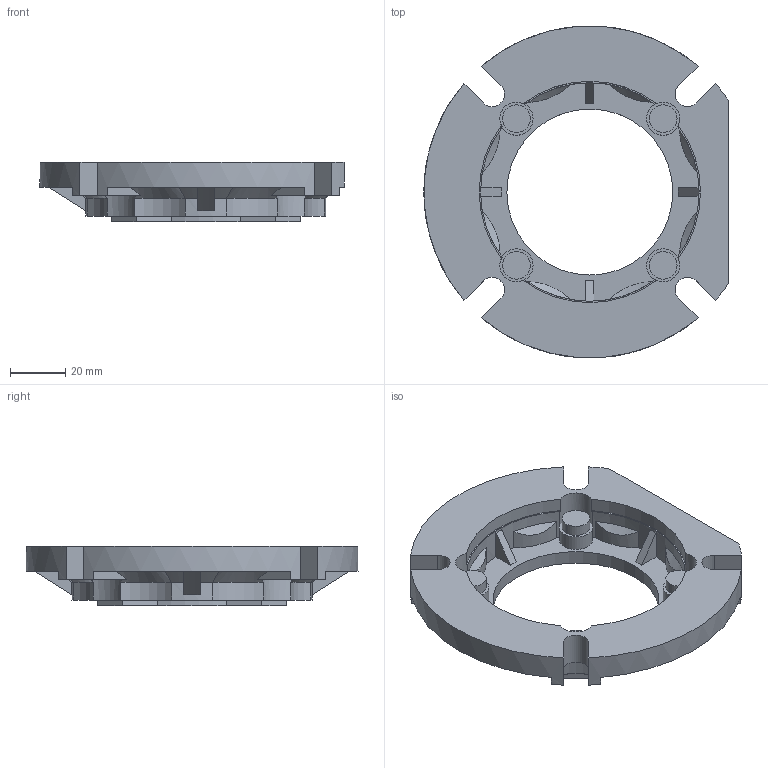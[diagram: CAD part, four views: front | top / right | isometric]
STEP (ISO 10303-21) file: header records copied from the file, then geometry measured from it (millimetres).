
FILE_DESCRIPTION(/* description */ (''),/* implementation_level */ '2;1');
FILE_NAME(/* name */ '3_FLAGIA (CAMPANA) LATERALE FD NMRV040',/* time_stamp */ '2025-10-09T14:22:53+02:00',/* author */ (''),/* organization */ (''),/* preprocessor_version */ 'ST-DEVELOPER v19.2',/* originating_system */ 'Rhino 8.23',/* authorisation */ '');
FILE_SCHEMA (('CONFIG_CONTROL_DESIGN'));
Length unit declared in the file: millimetre
Products named in the file (2): Document; FU 40FD
Bounding box: 110 x 120 x 21.5 mm (x, y, z)
Volume: 72180.3 mm3; surface area: 29305.8 mm2
Topology: 1 solids, 1 shells, 163 faces, 448 edges, 292 vertices
Faces by surface type: plane 74, cylinder 63, bspline 26
Entity records: 7290 total; most frequent: CARTESIAN_POINT 2047, ORIENTED_EDGE 896, DIRECTION 525, EDGE_CURVE 448, AXIS2_PLACEMENT_3D 331, VERTEX_POINT 292, B_SPLINE_CURVE_WITH_KNOTS 254, TRIMMED_CURVE 190
